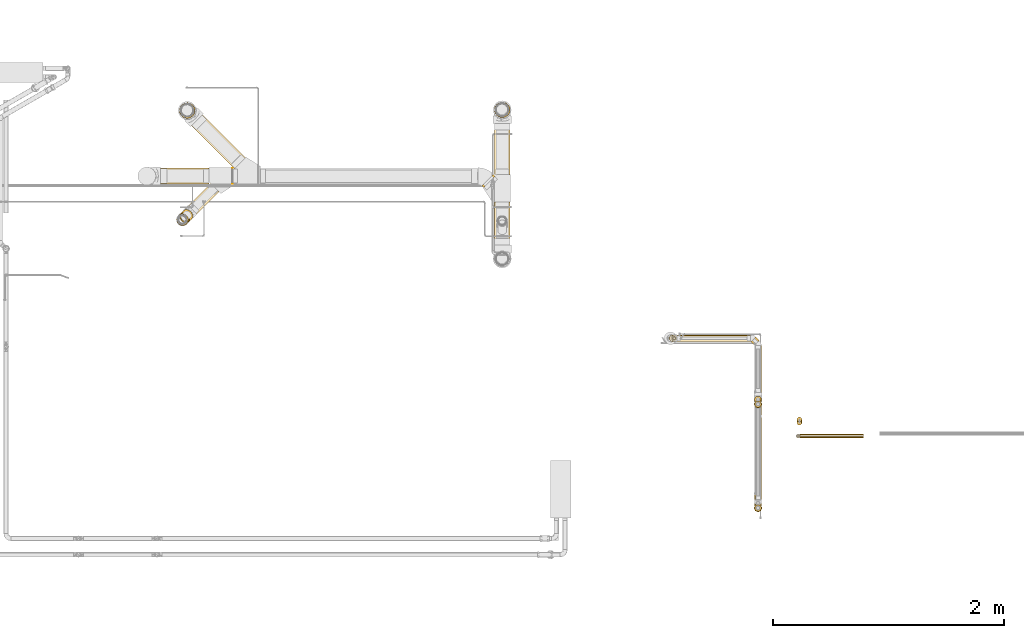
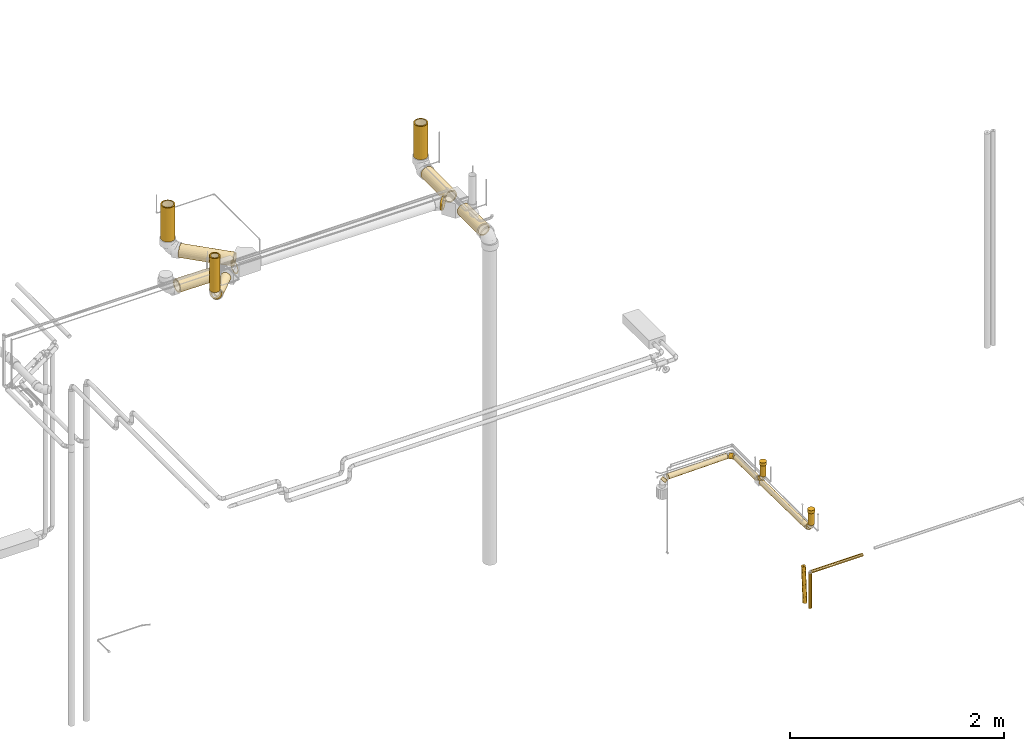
# One storey, part 3 of 108: 25 coverings.
"""IFC2X3 building model written with IfcOpenShell, lengths in millimetres."""

from ifc_helpers import new_model, entity, si_unit, converted_unit, derived_unit, direction, frame, origin_with_axes, origin_2d_with_axis, place, context, subcontext, project, spatial, hollow_circle, extrude, open_shell, surface_model, source, transform, mapped, element, save


model = new_model("IFC2X3")

# Units and contexts
model_context = context("Model", 3, precision=0.01, world=frame((0.0, 4.29681676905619e-09, 0.0)), true_north=direction((4.01073788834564e-13, 1.0)))
plan_context = context("Plan", 3, precision=0.01, world=frame((0.0, 4.29681676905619e-09, 0.0)), true_north=direction((4.01073788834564e-13, 1.0)))
body_context = subcontext(model_context, "Body", "Model", "MODEL_VIEW")
ifc_project = project(units=[converted_unit("PLANEANGLEUNIT", "DEGREE", entity("IfcPositiveLengthMeasure", 0.0174532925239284), si_unit("PLANEANGLEUNIT", "RADIAN"), dimensions=[0, 0, 0, 0, 0, 0, 0]), si_unit("AREAUNIT", "SQUARE_METRE"), si_unit("LENGTHUNIT", "METRE", prefix="MILLI"), si_unit("MASSUNIT", "GRAM", prefix="KILO"), si_unit("POWERUNIT", "WATT"), si_unit("PRESSUREUNIT", "PASCAL", prefix="KILO"), si_unit("FORCEUNIT", "NEWTON", prefix="KILO"), si_unit("ELECTRICVOLTAGEUNIT", "VOLT"), si_unit("ELECTRICCURRENTUNIT", "AMPERE"), si_unit("THERMODYNAMICTEMPERATUREUNIT", "DEGREE_CELSIUS"), si_unit("TIMEUNIT", "SECOND"), si_unit("VOLUMEUNIT", "CUBIC_METRE"), derived_unit("LINEARVELOCITYUNIT", [(si_unit("LENGTHUNIT", "METRE"), 1), (si_unit("TIMEUNIT", "SECOND"), -1)]), derived_unit("VOLUMETRICFLOWRATEUNIT", [(si_unit("VOLUMEUNIT", "CUBIC_METRE"), 1), (si_unit("TIMEUNIT", "SECOND"), -1)]), derived_unit("THERMALTRANSMITTANCEUNIT", [(si_unit("POWERUNIT", "WATT"), 1), (si_unit("THERMODYNAMICTEMPERATUREUNIT", "KELVIN"), -1), (si_unit("AREAUNIT", "SQUARE_METRE"), -1)]), derived_unit("SOUNDPRESSUREUNIT", [(si_unit("PRESSUREUNIT", "PASCAL"), 1)])], contexts=[model_context, plan_context])

# Site, building, storey
site_placement = place(None, frame((0.0, -4.29681676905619e-09, 0.0), z_axis=(0.0, 0.0, 1.0), x_axis=(1.0, 0.0, 0.0)))
site = spatial("IfcSite", under=ifc_project, at=site_placement, CompositionType="ELEMENT")
building_placement = place(site_placement, frame((0.0, 4.29681676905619e-09, 0.0), z_axis=(0.0, 0.0, 1.0), x_axis=(1.0, 0.0, 0.0)))
building = spatial("IfcBuilding", under=site, at=building_placement, Name="mc-building", CompositionType="ELEMENT")
storey_placement = place(building_placement, frame((0.0, 0.0, 210200.0), z_axis=(0.0, 0.0, 1.0), x_axis=(1.0, 0.0, 0.0)))
storey = spatial("IfcBuildingStorey", under=building, at=storey_placement, Name="Nivå F - 0,7 m", CompositionType="ELEMENT", Elevation=210200.0)

# Coverings
shared_shape_1 = source(origin_with_axes(), body_context, "Body", "SweptSolid", [
    extrude(hollow_circle(Radius=68.0, WallThickness=13.0, at=origin_2d_with_axis()), frame((0.0, 0.0, 0.0), z_axis=(1.0, 0.0, 0.0), x_axis=(0.0, 1.0, 0.0)), (0.0, 0.0, 1.0), 20.3),
])
covering_1_placement = place(storey_placement, frame((328780.57679, 463496.2064, 3072.93995), z_axis=(0.707130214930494, 0.707071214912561, 0.00414200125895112), x_axis=(0.707071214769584, -0.707071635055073, -0.0100000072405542)))
element("IfcCovering", 1, at=covering_1_placement, inside=storey, Name="BI17T - Cellegummi 13 mm SPV fett", PredefinedType="INSULATION", context=body_context, shape_type="MappedRepresentation", body=[
    mapped(shared_shape_1, transform((0.0, 0.0, 0.0), scale=1.0)),
])
shared_shape_2 = source(origin_with_axes(), body_context, "Body", "SweptSolid", [
    extrude(hollow_circle(Radius=68.0, WallThickness=13.0, at=origin_2d_with_axis()), frame((0.0, 0.0, 0.0), z_axis=(1.0, 0.0, 0.0), x_axis=(0.0, 1.0, 0.0)), (0.0, 0.0, 1.0), 371.4),
])
covering_2_placement = place(storey_placement, frame((328906.4829, 463306.41423, 3070.52051), z_axis=(0.999991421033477, 4.10000172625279e-05, -0.00414200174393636), x_axis=(-4.22046556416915e-07, -0.999949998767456, -0.00999999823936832)))
element("IfcCovering", 2, at=covering_2_placement, inside=storey, Name="BI17T - Cellegummi 13 mm SPV fett", PredefinedType="INSULATION", context=body_context, shape_type="MappedRepresentation", body=[
    mapped(shared_shape_2, transform((0.0, 0.0, 0.0), scale=1.0)),
])
shared_shape_3 = source(origin_with_axes(), body_context, "Body", "SweptSolid", [
    extrude(hollow_circle(Radius=68.0, WallThickness=13.0, at=origin_2d_with_axis()), frame((0.0, 0.0, 0.0), z_axis=(1.0, 0.0, 0.0), x_axis=(0.0, 1.0, 0.0)), (0.0, 0.0, 1.0), 440.2),
])
covering_3_placement = place(storey_placement, frame((328906.4829, 463545.75945, 3072.91396000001), z_axis=(0.999991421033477, 4.10000172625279e-05, -0.00414200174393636), x_axis=(4.17904594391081e-07, 0.999950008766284, 0.00999899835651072)))
element("IfcCovering", 3, at=covering_3_placement, inside=storey, Name="BI17T - Cellegummi 13 mm SPV fett", PredefinedType="INSULATION", context=body_context, shape_type="MappedRepresentation", body=[
    mapped(shared_shape_3, transform((0.0, 0.0, 0.0), scale=1.0)),
])
shared_shape_4 = source(origin_with_axes(), body_context, "Body", "SweptSolid", [
    extrude(hollow_circle(Radius=68.0, WallThickness=13.0, at=origin_2d_with_axis()), frame((0.0, 0.0, 0.0), z_axis=(1.0, 0.0, 0.0), x_axis=(0.0, 1.0, 0.0)), (0.0, 0.0, 1.0), 380.0),
])
covering_4_placement = place(storey_placement, frame((328906.4829, 464105.74812, 3198.30989999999), z_axis=(-2.06795153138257e-25, 0.9999999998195, 1.89999999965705e-05), x_axis=(-5.3999999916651e-05, -1.89999999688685e-05, 0.9999999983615)))
element("IfcCovering", 4, at=covering_4_placement, inside=storey, Name="BI17T - Cellegummi 13 mm SPV fett", PredefinedType="INSULATION", context=body_context, shape_type="MappedRepresentation", body=[
    mapped(shared_shape_4, transform((0.0, 0.0, 0.0), scale=1.0)),
])
shared_shape_5 = source(origin_with_axes(), body_context, "Body", "SweptSolid", [
    extrude(hollow_circle(Radius=68.0, WallThickness=13.0, at=origin_2d_with_axis()), frame((0.0, 0.0, 0.0), z_axis=(1.0, 0.0, 0.0), x_axis=(0.0, 1.0, 0.0)), (0.0, 0.0, 1.0), 387.2),
])
covering_5_placement = place(storey_placement, frame((326179.08055, 464099.21054, 3221.17655999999), z_axis=(-0.70712428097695, 0.707089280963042, 0.0), x_axis=(0.0, 0.0, 1.0)))
element("IfcCovering", 5, at=covering_5_placement, inside=storey, Name="BI17T - Cellegummi 13 mm SPV fett", PredefinedType="INSULATION", context=body_context, shape_type="MappedRepresentation", body=[
    mapped(shared_shape_5, transform((0.0, 0.0, 0.0), scale=1.0)),
])
shared_shape_6 = source(origin_with_axes(), body_context, "Body", "SweptSolid", [
    extrude(hollow_circle(Radius=68.0, WallThickness=13.0, at=origin_2d_with_axis()), frame((0.0, 0.0, 0.0), z_axis=(1.0, 0.0, 0.0), x_axis=(0.0, 1.0, 0.0)), (0.0, 0.0, 1.0), 525.1),
])
covering_6_placement = place(storey_placement, frame((326263.79285, 464014.50348, 3100.28234999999), z_axis=(-0.707053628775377, -0.707147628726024, 0.00417099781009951), x_axis=(0.707089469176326, -0.707054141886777, -0.00994600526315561)))
element("IfcCovering", 6, at=covering_6_placement, inside=storey, Name="BI17T - Cellegummi 13 mm SPV fett", PredefinedType="INSULATION", context=body_context, shape_type="MappedRepresentation", body=[
    mapped(shared_shape_6, transform((0.0, 0.0, 0.0), scale=1.0)),
])
shared_shape_7 = source(origin_with_axes(), body_context, "Body", "SweptSolid", [
    extrude(hollow_circle(Radius=68.0, WallThickness=13.0, at=origin_2d_with_axis()), frame((0.0, 0.0, 0.0), z_axis=(1.0, 0.0, 0.0), x_axis=(0.0, 1.0, 0.0)), (0.0, 0.0, 1.0), 3.0),
])
covering_7_placement = place(storey_placement, frame((326568.19537, 463531.64264, 3095.27202), z_axis=(-4.099998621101e-05, -0.99999166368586, -0.00408299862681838), x_axis=(0.999950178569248, -2.41441949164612e-07, -0.00998200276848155)))
element("IfcCovering", 7, at=covering_7_placement, inside=storey, Name="BI17T - Cellegummi 13 mm SPV fett", PredefinedType="INSULATION", context=body_context, shape_type="MappedRepresentation", body=[
    mapped(shared_shape_7, transform((0.0, 0.0, 0.0), scale=1.0)),
])
shared_shape_8 = source(origin_with_axes(), body_context, "Body", "SweptSolid", [
    extrude(hollow_circle(Radius=68.0, WallThickness=13.0, at=origin_2d_with_axis()), frame((0.0, 0.0, 0.0), z_axis=(1.0, 0.0, 0.0), x_axis=(0.0, 1.0, 0.0)), (0.0, 0.0, 1.0), 417.3),
])
covering_8_placement = place(storey_placement, frame((325948.64456, 463531.64264, 3101.45658999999), z_axis=(0.00998200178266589, 0.0, 0.999950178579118), x_axis=(0.999950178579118, 0.0, -0.00998200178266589)))
element("IfcCovering", 8, at=covering_8_placement, inside=storey, Name="BI17T - Cellegummi 13 mm SPV fett", PredefinedType="INSULATION", context=body_context, shape_type="MappedRepresentation", body=[
    mapped(shared_shape_8, transform((0.0, 0.0, 0.0), scale=1.0)),
])
shared_shape_9 = source(origin_with_axes(), body_context, "Body", "SweptSolid", [
    extrude(hollow_circle(Radius=50.5, WallThickness=13.0, at=origin_2d_with_axis()), frame((0.0, 0.0, 0.0), z_axis=(1.0, 0.0, 0.0), x_axis=(0.0, 1.0, 0.0)), (0.0, 0.0, 1.0), 272.9),
])
covering_9_placement = place(storey_placement, frame((326417.49213, 463432.44529, 3097.57904000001), z_axis=(0.00499100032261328, 0.00499600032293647, 0.99997506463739), x_axis=(-0.707113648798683, -0.707064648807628, 0.00706187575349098)))
element("IfcCovering", 9, at=covering_9_placement, inside=storey, Name="BI17T - Cellegummi 13 mm SPV fett", PredefinedType="INSULATION", context=body_context, shape_type="MappedRepresentation", body=[
    mapped(shared_shape_9, transform((0.0, 0.0, 0.0), scale=1.0)),
])
shared_shape_10 = source(origin_with_axes(), body_context, "Body", "SweptSolid", [
    extrude(hollow_circle(Radius=50.5, WallThickness=13.0, at=origin_2d_with_axis()), frame((0.0, 0.0, 0.0), z_axis=(1.0, 0.0, 0.0), x_axis=(0.0, 1.0, 0.0)), (0.0, 0.0, 1.0), 57.3),
])
covering_10_placement = place(storey_placement, frame((326183.86075, 463198.82722, 3123.66485), z_axis=(0.499999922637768, 0.499999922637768, 0.707106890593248), x_axis=(-0.50000007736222, -0.50000007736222, 0.70710667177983)))
element("IfcCovering", 10, at=covering_10_placement, inside=storey, Name="BI17T - Cellegummi 13 mm SPV fett", PredefinedType="INSULATION", context=body_context, shape_type="MappedRepresentation", body=[
    mapped(shared_shape_10, transform((0.0, 0.0, 0.0), scale=1.0)),
])
shared_shape_11 = source(origin_with_axes(), body_context, "Body", "SweptSolid", [
    extrude(hollow_circle(Radius=50.5, WallThickness=13.0, at=origin_2d_with_axis()), frame((0.0, 0.0, 0.0), z_axis=(1.0, 0.0, 0.0), x_axis=(0.0, 1.0, 0.0)), (0.0, 0.0, 1.0), 385.8),
])
covering_11_placement = place(storey_placement, frame((326138.13322, 463153.0997, 3222.50596000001), z_axis=(0.707106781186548, 0.707106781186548, 0.0), x_axis=(0.0, 0.0, 1.0)))
element("IfcCovering", 11, at=covering_11_placement, inside=storey, Name="BI17T - Cellegummi 13 mm SPV fett", PredefinedType="INSULATION", context=body_context, shape_type="MappedRepresentation", body=[
    mapped(shared_shape_11, transform((0.0, 0.0, 0.0), scale=1.0)),
])
shared_shape_12 = source(origin_with_axes(), body_context, "Body", "SweptSolid", [
    extrude(hollow_circle(Radius=29.0, WallThickness=13.0, at=origin_2d_with_axis()), frame((0.0, 0.0, 0.0), z_axis=(1.0, 0.0, 0.0), x_axis=(0.0, 1.0, 0.0)), (0.0, 0.0, 1.0), 31.2),
])
covering_12_placement = place(storey_placement, frame((330374.65892, 462127.61957, 183.029299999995), z_axis=(-0.707106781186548, 0.0, 0.707106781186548), x_axis=(0.707106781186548, 0.0, 0.707106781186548)))
element("IfcCovering", 12, at=covering_12_placement, inside=storey, Name="BI17T - Cellegummi 13 mm SPV fett", PredefinedType="INSULATION", context=body_context, shape_type="MappedRepresentation", body=[
    mapped(shared_shape_12, transform((0.0, 0.0, 0.0), scale=1.0)),
])
shared_shape_13 = source(origin_with_axes(), body_context, "Body", "SweptSolid", [
    extrude(hollow_circle(Radius=29.0, WallThickness=13.0, at=origin_2d_with_axis()), frame((0.0, 0.0, 0.0), z_axis=(1.0, 0.0, 0.0), x_axis=(0.0, 1.0, 0.0)), (0.0, 0.0, 1.0), 636.2),
])
covering_13_placement = place(storey_placement, frame((330421.01137, 462127.61957, 215.383130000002), z_axis=(-0.0166640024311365, 0.0, 0.999861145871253), x_axis=(0.999861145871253, 0.0, 0.0166640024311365)))
element("IfcCovering", 13, at=covering_13_placement, inside=storey, Name="BI17T - Cellegummi 13 mm SPV fett", PredefinedType="INSULATION", context=body_context, shape_type="MappedRepresentation", body=[
    mapped(shared_shape_13, transform((0.0, 0.0, 0.0), scale=1.0)),
])
shared_shape_14 = source(origin_with_axes(), body_context, "Body", "SweptSolid", [
    extrude(hollow_circle(Radius=29.0, WallThickness=13.0, at=origin_2d_with_axis()), frame((0.0, 0.0, 0.0), z_axis=(1.0, 0.0, 0.0), x_axis=(0.0, 1.0, 0.0)), (0.0, 0.0, 1.0), 40.9),
])
covering_14_placement = place(storey_placement, frame((331081.98999, 462117.31273, 226.464830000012), z_axis=(-0.0115039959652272, 0.0115039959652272, 0.999867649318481), x_axis=(0.707013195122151, -0.707013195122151, 0.0162691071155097)))
element("IfcCovering", 14, at=covering_14_placement, inside=storey, Name="BI17T - Cellegummi 13 mm SPV fett", PredefinedType="INSULATION", context=body_context, shape_type="MappedRepresentation", body=[
    mapped(shared_shape_14, transform((0.0, 0.0, 0.0), scale=1.0)),
])
shared_shape_15 = source(origin_with_axes(), body_context, "Body", "SweptSolid", [
    extrude(hollow_circle(Radius=29.0, WallThickness=13.0, at=origin_2d_with_axis()), frame((0.0, 0.0, 0.0), z_axis=(1.0, 0.0, 0.0), x_axis=(0.0, 1.0, 0.0)), (0.0, 0.0, 1.0), 852.1),
])
covering_15_placement = place(storey_placement, frame((331121.18062, 461581.83609, 235.638100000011), z_axis=(0.0, 0.0166640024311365, 0.999861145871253), x_axis=(0.0, -0.999861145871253, 0.0166640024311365)))
element("IfcCovering", 15, at=covering_15_placement, inside=storey, Name="BI17T - Cellegummi 13 mm SPV fett", PredefinedType="INSULATION", context=body_context, shape_type="MappedRepresentation", body=[
    mapped(shared_shape_15, transform((0.0, 0.0, 0.0), scale=1.0)),
])
shared_shape_16 = source(origin_with_axes(), body_context, "Body", "SweptSolid", [
    extrude(hollow_circle(Radius=29.0, WallThickness=13.0, at=origin_2d_with_axis()), frame((0.0, 0.0, 0.0), z_axis=(1.0, 0.0, 0.0), x_axis=(0.0, 1.0, 0.0)), (0.0, 0.0, 1.0), 53.2),
])
covering_16_placement = place(storey_placement, frame((331121.18062, 460705.53746, 260.142969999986), z_axis=(0.0, 0.707106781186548, 0.707106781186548), x_axis=(0.0, -0.707106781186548, 0.707106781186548)))
element("IfcCovering", 16, at=covering_16_placement, inside=storey, Name="BI17T - Cellegummi 13 mm SPV fett", PredefinedType="INSULATION", context=body_context, shape_type="MappedRepresentation", body=[
    mapped(shared_shape_16, transform((0.0, 0.0, 0.0), scale=1.0)),
])
shared_shape_17 = source(origin_with_axes(), body_context, "Body", "SweptSolid", [
    extrude(hollow_circle(Radius=29.0, WallThickness=13.0, at=origin_2d_with_axis()), frame((0.0, 0.0, 0.0), z_axis=(1.0, 0.0, 0.0), x_axis=(0.0, 1.0, 0.0)), (0.0, 0.0, 1.0), 137.7),
])
covering_17_placement = place(storey_placement, frame((331121.18062, 460657.6, 322.66075000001), z_axis=(0.0, 1.0, 0.0), x_axis=(0.0, 0.0, 1.0)))
element("IfcCovering", 17, at=covering_17_placement, inside=storey, Name="BI17T - Cellegummi 13 mm SPV fett", PredefinedType="INSULATION", context=body_context, shape_type="MappedRepresentation", body=[
    mapped(shared_shape_17, transform((0.0, 0.0, 0.0), scale=1.0)),
])
shared_shape_18 = source(origin_with_axes(), body_context, "Body", "SurfaceModel", [
    surface_model("IfcShellBasedSurfaceModel", [(34.2, 17.1, -29.61807), (34.2, 0.0, -34.2), (34.2, 8.85161, -33.03466), (34.2, 29.61807, -17.1), (34.2, 24.18305, -24.18305), (34.2, 33.03466, -8.85161), (34.2, -33.03466, 8.85161), (34.2, -33.03466, -8.85161), (34.2, -17.1, -29.61807), (34.2, -8.85161, -33.03466), (34.2, -24.18305, -24.18305), (34.2, -29.61807, -17.1), (34.2, 34.2, 0.0), (34.2, 33.03466, 8.85161), (34.2, 29.61807, 17.1), (34.2, 24.18305, 24.18305), (34.2, -24.18305, 24.18305), (34.2, 17.1, 29.61807), (34.2, 8.85161, 33.03466), (34.2, 0.0, 34.2), (34.2, -29.61807, 17.1), (34.2, -34.2, 0.0), (34.2, -8.85161, 33.03466), (34.2, -17.1, 29.61807), (0.0, 0.0, 34.2), (0.0, 8.85161, 33.03466), (0.0, 17.1, 29.61807), (0.0, 24.18305, 24.18305), (0.0, 29.61807, 17.1), (0.0, 33.03466, 8.85161), (0.0, -8.85161, 33.03466), (0.0, -33.03466, -8.85161), (0.0, -24.18305, 24.18305), (0.0, -17.1, 29.61807), (0.0, -33.03466, 8.85161), (0.0, -29.61807, 17.1), (0.0, -34.2, 0.0), (0.0, 33.03466, -8.85161), (0.0, 29.61807, -17.1), (0.0, 17.1, -29.61807), (0.0, 24.18305, -24.18305), (0.0, 8.85161, -33.03466), (0.0, -24.18305, -24.18305), (0.0, -29.61807, -17.1), (0.0, -17.1, -29.61807), (0.0, 0.0, -34.2), (0.0, -8.85161, -33.03466), (0.0, 34.2, 0.0)], [open_shell([[[0, 1, 2]], [[3, 0, 4]], [[5, 1, 3]], [[3, 1, 0]], [[6, 7, 5]], [[1, 8, 9]], [[1, 5, 8]], [[10, 7, 11]], [[7, 10, 8]], [[5, 7, 8]], [[5, 12, 13]], [[13, 14, 15]], [[16, 13, 15]], [[17, 18, 19]], [[17, 19, 15]], [[16, 15, 19]], [[6, 16, 20]], [[21, 7, 6]], [[16, 22, 23]], [[16, 6, 13]], [[22, 16, 19]], [[6, 5, 13]], [[24, 25, 26]], [[24, 26, 27]], [[27, 28, 29]], [[24, 27, 30]], [[31, 32, 27]], [[30, 32, 33]], [[30, 27, 32]], [[32, 34, 35]], [[32, 31, 34]], [[34, 31, 36]], [[29, 31, 27]], [[31, 29, 37]], [[38, 31, 37]], [[38, 39, 31]], [[39, 38, 40]], [[39, 41, 31]], [[31, 42, 43]], [[42, 31, 44]], [[44, 45, 46]], [[45, 44, 31]], [[31, 41, 45]], [[37, 29, 47]], [[13, 47, 29]], [[14, 29, 28]], [[12, 47, 13]], [[13, 29, 14]], [[28, 15, 14]], [[28, 27, 15]], [[17, 26, 25]], [[18, 25, 24]], [[27, 17, 15]], [[27, 26, 17]], [[17, 25, 18]], [[24, 19, 18]], [[22, 24, 30]], [[23, 30, 33]], [[19, 24, 22]], [[23, 22, 30]], [[16, 23, 33]], [[33, 32, 16]], [[20, 35, 34]], [[6, 34, 36]], [[32, 20, 16]], [[32, 35, 20]], [[20, 34, 6]], [[36, 21, 6]], [[7, 36, 31]], [[11, 31, 43]], [[21, 36, 7]], [[11, 7, 31]], [[10, 11, 43]], [[43, 42, 10]], [[9, 46, 45]], [[8, 10, 44]], [[44, 46, 8]], [[8, 46, 9]], [[45, 1, 9]], [[44, 10, 42]], [[2, 45, 41]], [[0, 41, 39]], [[1, 45, 2]], [[0, 2, 41]], [[4, 0, 39]], [[39, 40, 4]], [[37, 47, 5]], [[3, 4, 38]], [[38, 37, 3]], [[3, 37, 5]], [[47, 12, 5]], [[38, 4, 40]]])]),
])
for number, where, z_axis, x_axis in (
    (18, (331121.18062, 460657.6, 460.410680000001), (0.0, 1.0, 0.0), (0.0, 0.0, 1.0)),
    (19, (331121.18062, 461557.6, 456.713359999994), (1.0, 0.0, 0.0), (0.0, 0.0, 1.0)),
):
    element("IfcCovering", number, at=place(storey_placement, frame(where, z_axis=z_axis, x_axis=x_axis)), inside=storey, Name="BI17T - Cellegummi 13 mm SPV fett", PredefinedType="INSULATION", context=body_context, shape_type="MappedRepresentation", body=[
        mapped(shared_shape_18, transform((0.0, 0.0, 0.0), scale=1.0)),
    ])
shared_shape_19 = source(origin_with_axes(), body_context, "Body", "SweptSolid", [
    extrude(hollow_circle(Radius=29.0, WallThickness=13.0, at=origin_2d_with_axis()), frame((0.0, 0.0, 0.0), z_axis=(1.0, 0.0, 0.0), x_axis=(0.0, 1.0, 0.0)), (0.0, 0.0, 1.0), 404.8),
])
covering_18_placement = place(storey_placement, frame((331121.18062, 462063.54611, 227.609599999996), z_axis=(0.0, 0.0166640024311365, 0.999861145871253), x_axis=(0.0, -0.999861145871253, 0.0166640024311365)))
element("IfcCovering", 20, at=covering_18_placement, inside=storey, Name="BI17T - Cellegummi 13 mm SPV fett", PredefinedType="INSULATION", context=body_context, shape_type="MappedRepresentation", body=[
    mapped(shared_shape_19, transform((0.0, 0.0, 0.0), scale=1.0)),
])
shared_shape_20 = source(origin_with_axes(), body_context, "Body", "SweptSolid", [
    extrude(hollow_circle(Radius=29.0, WallThickness=13.0, at=origin_2d_with_axis()), frame((0.0, 0.0, 0.0), z_axis=(1.0, 0.0, 0.0), x_axis=(0.0, 1.0, 0.0)), (0.0, 0.0, 1.0), 125.1),
])
covering_19_placement = place(storey_placement, frame((331121.18062, 461557.6, 331.584009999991), z_axis=(1.0, 0.0, 0.0), x_axis=(0.0, 0.0, 1.0)))
element("IfcCovering", 21, at=covering_19_placement, inside=storey, Name="BI17T - Cellegummi 13 mm SPV fett", PredefinedType="INSULATION", context=body_context, shape_type="MappedRepresentation", body=[
    mapped(shared_shape_20, transform((0.0, 0.0, 0.0), scale=1.0)),
])
shared_shape_21 = source(origin_with_axes(), body_context, "Body", "SweptSolid", [
    extrude(hollow_circle(Radius=29.0, WallThickness=13.0, at=origin_2d_with_axis()), frame((0.0, 0.0, 0.0), z_axis=(1.0, 0.0, 0.0), x_axis=(0.0, 1.0, 0.0)), (0.0, 0.0, 1.0), 52.1),
])
covering_20_placement = place(storey_placement, frame((331121.18062, 461603.71984, 269.662920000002), z_axis=(1.0, 0.0, 0.0), x_axis=(0.0, -0.695225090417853, 0.718792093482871)))
element("IfcCovering", 22, at=covering_20_placement, inside=storey, Name="BI17T - Cellegummi 13 mm SPV fett", PredefinedType="INSULATION", context=body_context, shape_type="MappedRepresentation", body=[
    mapped(shared_shape_21, transform((0.0, 0.0, 0.0), scale=1.0)),
])
shared_shape_22 = source(origin_with_axes(), body_context, "Body", "SweptSolid", [
    extrude(hollow_circle(Radius=21.0, WallThickness=15.0, at=origin_2d_with_axis()), frame((0.0, 0.0, 0.0), z_axis=(1.0, 0.0, 0.0), x_axis=(0.0, 1.0, 0.0)), (0.0, 0.0, 1.0), 402.0),
])
covering_21_placement = place(storey_placement, frame((331479.82315, 461396.56933, -1146.10049000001), z_axis=(-1.0, 0.0, 0.0), x_axis=(0.0, 0.0674929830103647, 0.997719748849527)))
element("IfcCovering", 23, at=covering_21_placement, inside=storey, Name="BI10T - Cellegummi 18-32 mm kalde rør", PredefinedType="INSULATION", context=body_context, shape_type="MappedRepresentation", body=[
    mapped(shared_shape_22, transform((0.0, 0.0, 0.0), scale=1.0)),
])
shared_shape_23 = source(origin_with_axes(), body_context, "Body", "SweptSolid", [
    extrude(hollow_circle(Radius=16.0, WallThickness=10.0, at=origin_2d_with_axis()), frame((0.0, 0.0, 0.0), z_axis=(1.0, 0.0, 0.0), x_axis=(0.0, 1.0, 0.0)), (0.0, 0.0, 1.0), 553.3),
])
covering_22_placement = place(storey_placement, frame((332033.91668, 461280.75941, -725.773129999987), z_axis=(0.0, 0.0, 1.0), x_axis=(-1.0, 0.0, 0.0)))
element("IfcCovering", 24, at=covering_22_placement, inside=storey, Name="BI10T - Cellegummi 18-32 mm kalde rør", PredefinedType="INSULATION", context=body_context, shape_type="MappedRepresentation", body=[
    mapped(shared_shape_23, transform((0.0, 0.0, 0.0), scale=1.0)),
])
shared_shape_24 = source(origin_with_axes(), body_context, "Body", "SweptSolid", [
    extrude(hollow_circle(Radius=16.0, WallThickness=10.0, at=origin_2d_with_axis()), frame((0.0, 0.0, 0.0), z_axis=(1.0, 0.0, 0.0), x_axis=(0.0, 1.0, 0.0)), (0.0, 0.0, 1.0), 396.0),
])
covering_23_placement = place(storey_placement, frame((331468.60023, 461280.75941, -737.773129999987), z_axis=(0.0, 1.0, 0.0), x_axis=(0.0, 0.0, -1.0)))
element("IfcCovering", 25, at=covering_23_placement, inside=storey, Name="BI10T - Cellegummi 18-32 mm kalde rør", PredefinedType="INSULATION", context=body_context, shape_type="MappedRepresentation", body=[
    mapped(shared_shape_24, transform((0.0, 0.0, 0.0), scale=1.0)),
])

save(model, "model.ifc")
